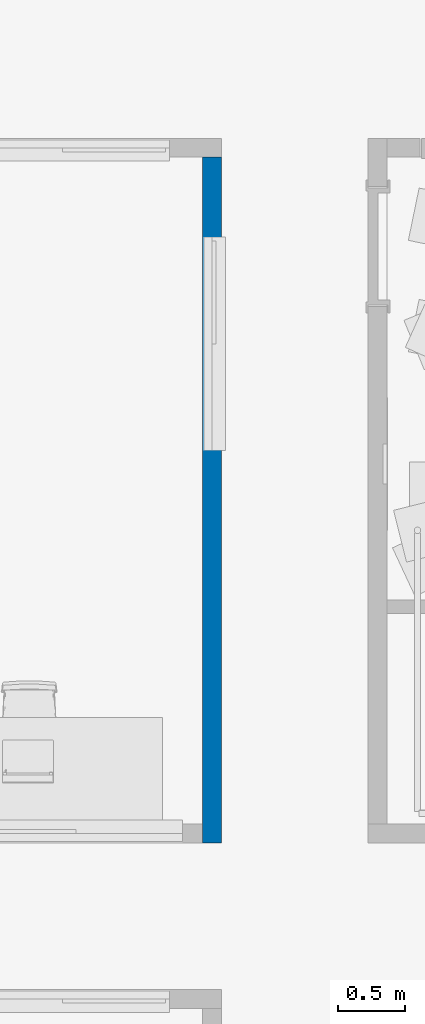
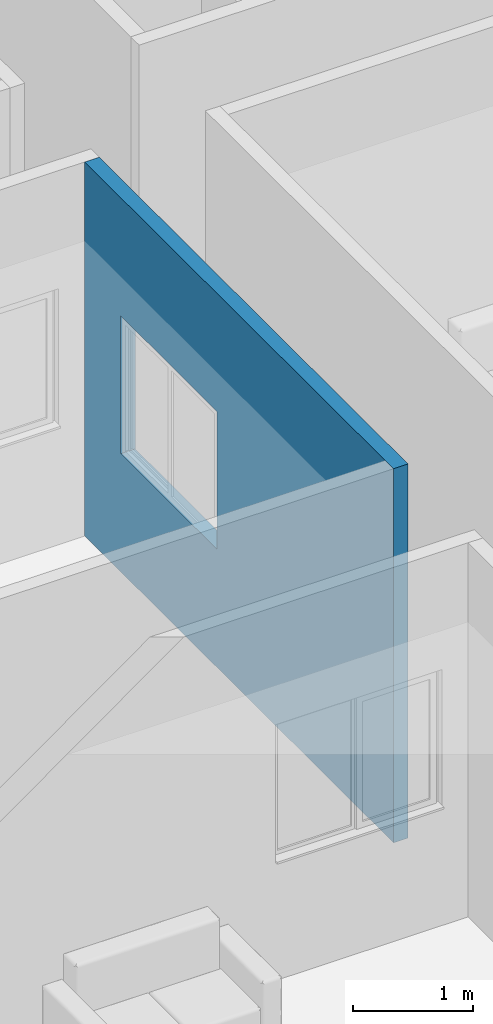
# One storey, part 12 of 72: 1 wall, 1 opening.
"""IFC4 building model written with IfcOpenShell, lengths in centimetres."""

from ifc_helpers import new_model, entity, si_unit, converted_unit, derived_unit, direction, frame, origin, place, context, subcontext, project, spatial, polygons, material, type_object, element, save


model = new_model("IFC4")

# Units and contexts
model_context = context("Model", 3, precision=0.001, world=origin(), true_north=direction((6.123233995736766e-17, 1.0)))
body_context = subcontext(model_context, "Body", "Model", "MODEL_VIEW")
ifc_project = project(units=[si_unit("LENGTHUNIT", "METRE", prefix="CENTI"), si_unit("AREAUNIT", "SQUARE_METRE"), si_unit("VOLUMEUNIT", "CUBIC_METRE"), derived_unit("THERMALTRANSMITTANCEUNIT", [(si_unit("MASSUNIT", "GRAM", prefix="KILO"), 1), (si_unit("THERMODYNAMICTEMPERATUREUNIT", "KELVIN"), -1), (si_unit("TIMEUNIT", "SECOND"), -3)]), converted_unit("PLANEANGLEUNIT", "DEGREE", entity("IfcPlaneAngleMeasure", 0.017453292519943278), si_unit("PLANEANGLEUNIT", "RADIAN"), dimensions=[0, 0, 0, 0, 0, 0, 0]), derived_unit("MASSDENSITYUNIT", [(si_unit("MASSUNIT", "GRAM", prefix="KILO"), 1), (si_unit("LENGTHUNIT", "METRE"), -3)]), derived_unit("VAPORPERMEABILITYUNIT", [(si_unit("LENGTHUNIT", "METRE"), -1), (si_unit("TIMEUNIT", "SECOND"), 1)]), derived_unit("USERDEFINED", [(si_unit("MASSUNIT", "GRAM", prefix="KILO"), 1), (si_unit("TIMEUNIT", "SECOND"), -3), (si_unit("LENGTHUNIT", "METRE"), 3), (si_unit("ELECTRICCURRENTUNIT", "AMPERE"), -2)]), derived_unit("SPECIFICHEATCAPACITYUNIT", [(si_unit("THERMODYNAMICTEMPERATUREUNIT", "KELVIN"), -1), (si_unit("LENGTHUNIT", "METRE"), 2), (si_unit("TIMEUNIT", "SECOND"), -2)]), derived_unit("THERMALCONDUCTANCEUNIT", [(si_unit("MASSUNIT", "GRAM", prefix="KILO"), 1), (si_unit("THERMODYNAMICTEMPERATUREUNIT", "KELVIN"), -1), (si_unit("TIMEUNIT", "SECOND"), -3), (si_unit("LENGTHUNIT", "METRE"), 1)]), si_unit("PRESSUREUNIT", "PASCAL"), derived_unit("MODULUSOFELASTICITYUNIT", [(si_unit("MASSUNIT", "GRAM", prefix="KILO"), 1), (si_unit("LENGTHUNIT", "METRE"), -1), (si_unit("TIMEUNIT", "SECOND"), -2)]), derived_unit("THERMALEXPANSIONCOEFFICIENTUNIT", [(si_unit("THERMODYNAMICTEMPERATUREUNIT", "KELVIN"), -1)])], contexts=[model_context])

# Site, building, storey
site_placement = place(None, origin())
site = spatial("IfcSite", under=ifc_project, at=site_placement, Name="Default", CompositionType="ELEMENT")
building_placement = place(site_placement, origin())
building = spatial("IfcBuilding", under=site, at=building_placement, Name="IDS Escape Game Building", CompositionType="ELEMENT")
storey_placement = place(building_placement, frame((0.0, 0.0, 800.0)))
storey = spatial("IfcBuildingStorey", under=building, at=storey_placement, Name="02_Second Floor", CompositionType="ELEMENT", Elevation=800.0)

# Wall, opening
ifc_material = material(Name="ARC_FME.g2_Fg2 Masonry_00_gen_BERSnl", Category="g - klei")
wall_type = type_object("IfcWallType", Name="Basic Wall:ARC_22.10_WA_LB_SB14_gen_BERSnl", PredefinedType="STANDARD")
wall_placement = place(storey_placement, frame((4304.0, 1913.0, 0.0), z_axis=(0.0, 0.0, 1.0), x_axis=(0.0, 1.0, 0.0)))
wall = element("IfcWall", 1, at=wall_placement, inside=storey, type_object=wall_type, material=ifc_material, Name="Basic Wall:ARC_22.10_WA_LB_SB14_gen_BERSnl", ObjectType="Basic Wall:ARC_22.10_WA_LB_SB14_gen_BERSnl", PredefinedType="NOTDEFINED", context=body_context, shape_type="Tessellation", body=[
    polygons([(0.0, -7.000000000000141, -1.0828671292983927e-13), (513.9999999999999, -7.000000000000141, -1.0828671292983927e-13), (513.9999999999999, -7.000000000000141, 379.9999999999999), (0.0, -7.000000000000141, 379.9999999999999), (454.00000000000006, -7.000000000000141, 260.00000000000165), (454.0000000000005, -7.000000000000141, 119.9999999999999), (294.0000000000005, -7.000000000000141, 119.9999999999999), (294.0000000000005, -7.000000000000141, 260.00000000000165), (454.0000000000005, 7.000000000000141, 119.9999999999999), (454.0000000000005, 7.000000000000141, 260.0000000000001), (294.0000000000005, 7.000000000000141, 260.0000000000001), (294.0000000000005, 7.000000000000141, 119.9999999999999), (0.0, 7.000000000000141, -1.0828671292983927e-13), (0.0, 7.000000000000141, 379.9999999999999), (14.000000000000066, 7.000000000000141, 379.9999999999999), (513.9999999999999, 7.000000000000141, 379.9999999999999), (513.9999999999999, 7.000000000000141, -1.0828671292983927e-13), (14.000000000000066, 7.000000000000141, -1.0828671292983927e-13)], [[[1, 2, 3, 4], [5, 6, 7, 8]], [[13, 14, 15, 16, 17, 18], [9, 10, 11, 12]], [[2, 1, 13, 18, 17]], [[4, 3, 16, 15, 14]], [[10, 9, 6, 5]], [[7, 12, 11, 8]], [[10, 5, 8, 11]], [[12, 7, 6, 9]], [[1, 4, 14, 13]], [[3, 2, 17, 16]]], closed=True),
])
opening_placement = place(wall_placement, frame((-1913.0, 4304.0, 120.0), z_axis=(0.0, 0.0, 1.0), x_axis=(0.0, -1.0, 0.0)))
element("IfcOpeningElement", 2, at=opening_placement, cuts=wall, Name="Basic Wall:ARC_22.10_WA_LB_SB14_gen_BERSnl", PredefinedType="OPENING", context=body_context, shape_type="Tessellation", body=[
    polygons([(4297.0, 2367.0000000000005, 0.0), (4297.0, 2367.0000000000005, -0.9999999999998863), (4292.000000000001, 2367.0000000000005, -0.9999999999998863), (4292.000000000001, 2367.0000000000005, 0.0), (4297.0, 2207.0000000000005, 0.0), (4292.000000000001, 2207.0000000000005, 0.0), (4292.000000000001, 2207.0000000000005, -0.9999999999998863), (4297.0, 2207.0000000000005, -0.9999999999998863), (4297.0, 2362.0000000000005, 1.1368683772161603e-13), (4297.0, 2212.0000000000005, 1.1368683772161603e-13), (4292.000000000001, 2212.0000000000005, 0.0), (4291.999999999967, 2212.0, 134.99999999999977), (4291.999999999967, 2362.0000000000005, 134.99999999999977), (4292.000000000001, 2362.0000000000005, 0.0), (4316.036825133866, 2367.0000000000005, 0.0), (4296.999999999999, 2367.0000000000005, 1.1368683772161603e-13), (4296.999999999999, 2367.0000000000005, 140.0000000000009), (4316.036825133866, 2367.0000000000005, 140.00000000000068), (4316.036825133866, 2207.0000000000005, 140.00000000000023), (4296.999999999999, 2207.0000000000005, 140.00000000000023), (4296.999999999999, 2207.0000000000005, 0.0), (4316.036825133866, 2207.0000000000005, 1.1368683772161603e-13), (4296.999999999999, 2362.0000000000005, 134.99999999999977), (4296.999999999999, 2212.0, 134.99999999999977)], [[[1, 2, 3, 4]], [[5, 6, 7, 8]], [[1, 9, 10, 5, 8, 2]], [[2, 8, 7, 3]], [[3, 7, 6, 11, 12, 13, 14, 4]], [[4, 14, 9, 1]], [[15, 16, 17, 18]], [[19, 20, 21, 22]], [[18, 17, 20, 19]], [[18, 19, 22, 15]], [[17, 16, 9, 23, 24, 10, 21, 20]], [[22, 21, 10, 9, 16, 15]], [[11, 10, 24, 12]], [[13, 23, 9, 14]], [[12, 24, 23, 13]], [[5, 10, 11, 6]]], closed=True),
])

save(model, "model.ifc")
